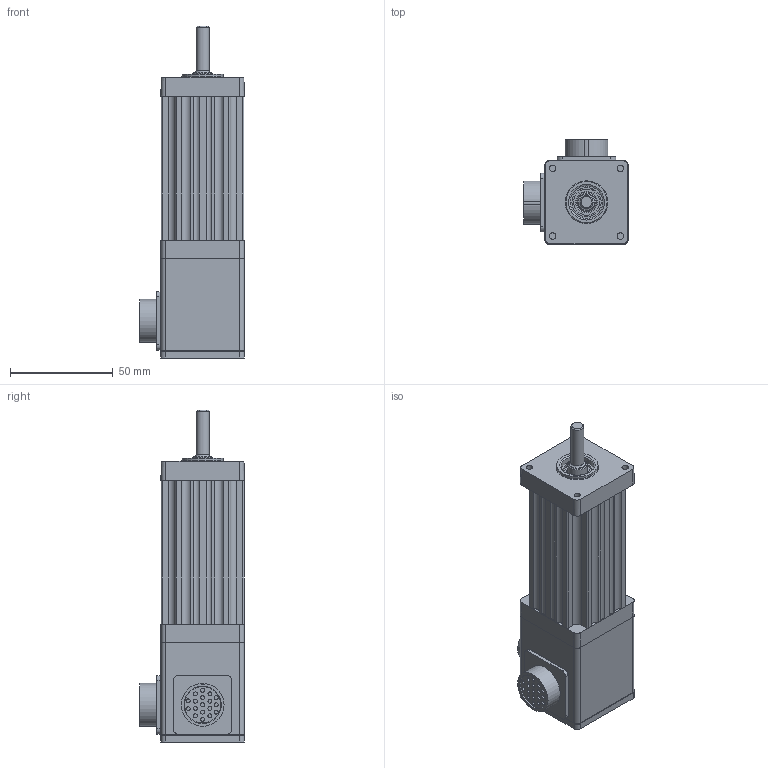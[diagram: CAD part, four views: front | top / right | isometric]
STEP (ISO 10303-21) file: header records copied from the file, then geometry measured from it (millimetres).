
FILE_DESCRIPTION((''),'2;1');
FILE_NAME('C:\CAD_work\Dummy_Modeling_Project_02-12-05\3D MODELS\SM162_MS_TQ.stp','2005-12-20T17:39:48',('jevans'),(''),'Autodesk Inventor 10','Autodesk Inventor 10','');
FILE_SCHEMA(('AUTOMOTIVE_DESIGN { 1 0 10303 214 1 1 1 1 }'));
Length unit declared in the file: inch
Products named in the file (1): SM16_MS_TQ
Bounding box: 51.03 x 50.98 x 161.8 mm (x, y, z)
Volume: 212804.5 mm3; surface area: 33982.2 mm2
Topology: 3 solids, 3 shells, 264 faces, 635 edges, 400 vertices
Faces by surface type: plane 124, cylinder 115, sphere 12, bspline 9, cone 3, torus 1
Full cylindrical faces by diameter (mm): 1.905 x26, 2.54 x4, 6.35 x1, 9.525 x2, 12.7 x1, 14.224 x1, 15.875 x1, 17.526 x1, 17.678 x1, 20.015 x1, 20.904 x2, 22.225 x1, 22.228 x1
Entity records: 7336 total; most frequent: CARTESIAN_POINT 1405, DIRECTION 1296, ORIENTED_EDGE 1076, EDGE_CURVE 538, AXIS2_PLACEMENT_3D 502, VERTEX_POINT 382, EDGE_LOOP 376, VECTOR 292
